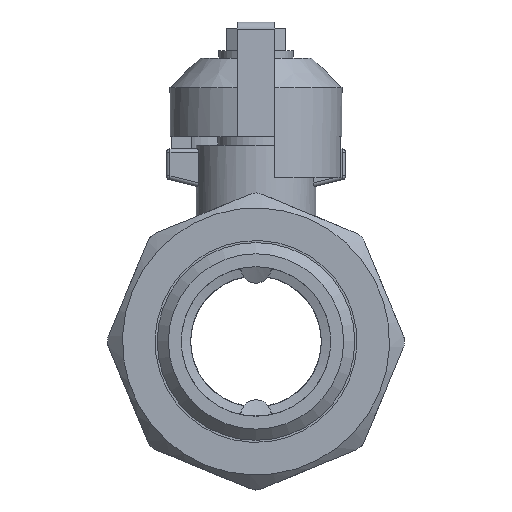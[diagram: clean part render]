
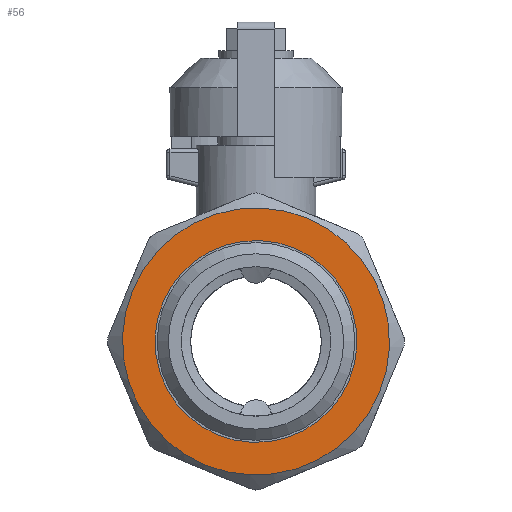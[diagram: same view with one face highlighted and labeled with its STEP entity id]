
A CAD part, front view. The second image highlights one B-rep face of the part: STEP entity #56.
In plain terms, the highlighted planar face has unit normal (0, -1, 0).
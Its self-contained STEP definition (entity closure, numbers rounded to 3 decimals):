
#56=ADVANCED_FACE('',(#426,#428),#430,.F.);
#426=FACE_BOUND('',#427,.T.);
#427=EDGE_LOOP('',(#2951));
#428=FACE_BOUND('',#429,.T.);
#429=EDGE_LOOP('',(#2952));
#430=PLANE('',#431);
#431=AXIS2_PLACEMENT_3D('',#432,#433,#434);
#432=CARTESIAN_POINT('',(0.,-5.1,0.));
#433=DIRECTION('',(0.,1.,0.));
#434=DIRECTION('',(0.924,0.,-0.383));
#2951=ORIENTED_EDGE('',*,*,#4695,.T.);
#2952=ORIENTED_EDGE('',*,*,#4693,.T.);
#4693=EDGE_CURVE('',#5568,#5568,#5569,.F.);
#4695=EDGE_CURVE('',#5572,#5572,#5573,.T.);
#5568=VERTEX_POINT('',#7036);
#5569=CIRCLE('',#7037,13.5);
#5572=VERTEX_POINT('',#7046);
#5573=CIRCLE('',#7047,17.859);
#7036=CARTESIAN_POINT('',(5.166,-5.1,12.472));
#7037=AXIS2_PLACEMENT_3D('',#7038,#7039,#7040);
#7038=CARTESIAN_POINT('',(0.,-5.1,0.));
#7039=DIRECTION('',(0.,-1.,0.));
#7040=DIRECTION('',(0.383,0.,0.924));
#7046=CARTESIAN_POINT('',(6.834,-5.1,16.5));
#7047=AXIS2_PLACEMENT_3D('',#7048,#7049,#7050);
#7048=CARTESIAN_POINT('',(0.,-5.1,0.));
#7049=DIRECTION('',(0.,-1.,0.));
#7050=DIRECTION('',(0.383,0.,0.924));
